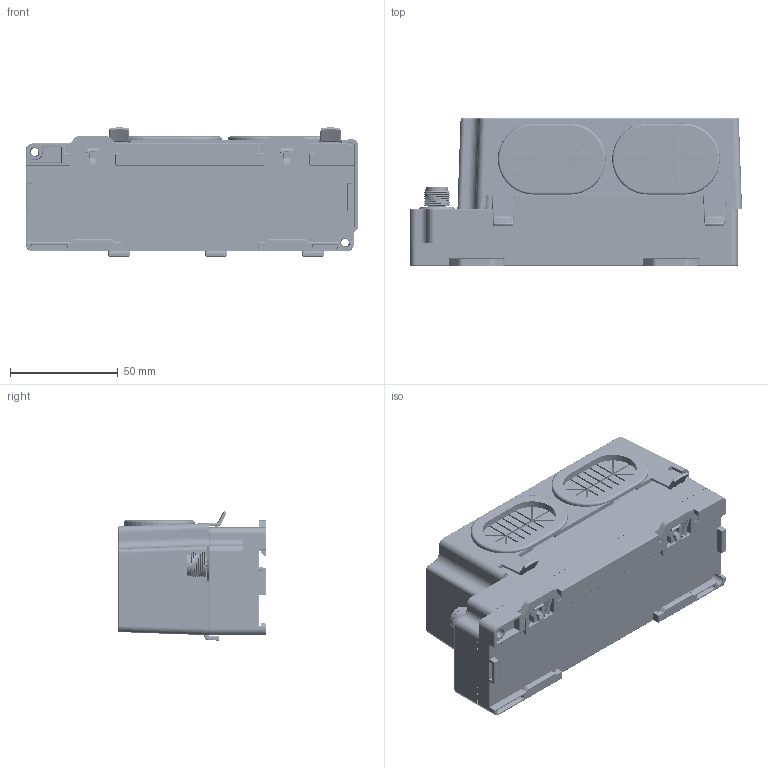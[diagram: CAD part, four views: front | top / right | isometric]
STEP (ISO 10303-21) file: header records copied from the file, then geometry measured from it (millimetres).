
FILE_DESCRIPTION((''),'2;1');
FILE_NAME('PRT0001','2026-06-18T15:07:28',('Administrator'),(''),'CREO PARAMETRIC BY PTC INC, 2022073','CREO PARAMETRIC BY PTC INC, 2022073','');
FILE_SCHEMA(('AUTOMOTIVE_DESIGN { 1 0 10303 214 1 1 1 1 }'));
Products named in the file (1): PRT0001
Bounding box: 154 x 68.5 x 59.9 mm (x, y, z)
Surface area: 150178.5 mm2 (no closed solid volume)
Topology: 0 solids, 349 shells, 7288 faces, 26383 edges, 19047 vertices
Faces by surface type: plane 4477, cylinder 1839, bspline 522, cone 274, torus 94, sphere 82
Entity records: 349869 total; most frequent: CARTESIAN_POINT 84809, DIRECTION 43615, ORIENTED_EDGE 43441, EDGE_CURVE 26100, VERTEX_POINT 18919, VECTOR 18443, LINE 18443, AXIS2_PLACEMENT_3D 12586
